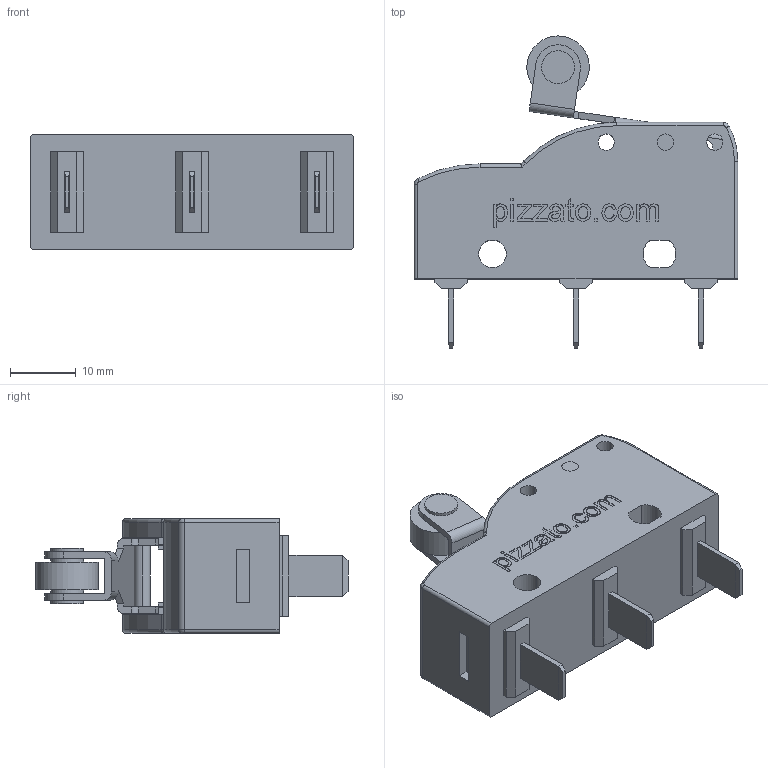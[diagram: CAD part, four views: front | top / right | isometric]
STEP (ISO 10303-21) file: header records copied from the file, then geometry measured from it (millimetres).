
FILE_DESCRIPTION (( 'STEP AP203' ), '1' );
FILE_NAME ('Pizzato_MK_HxxD59.STEP', '2009-02-18T16:14:57', ( 'mario' ), ( '' ), 'SwSTEP 2.0', 'SolidWorks 2009', '' );
FILE_SCHEMA (( 'CONFIG_CONTROL_DESIGN' ));
Length unit declared in the file: millimetre
Products named in the file (4): Pizzato_Perno Leva; Pizzato_Leva_MK59_MK59; Pizzato_Custodia_MK_MKH_Leva; Pizzato_MK_HxxD59
Assembly tree (3 placements, depth 2):
  Pizzato_MK_HxxD59
    Pizzato_Perno Leva
    Pizzato_Leva_MK59_MK59
    Pizzato_Custodia_MK_MKH_Leva
Bounding box: 49.2 x 47.47 x 17.4 mm (x, y, z)
Volume: 16406.8 mm3; surface area: 7294.4 mm2
Topology: 3 solids, 3 shells, 482 faces, 1268 edges, 834 vertices
Faces by surface type: plane 306, cylinder 97, bspline 69, torus 10
Entity records: 18582 total; most frequent: CARTESIAN_POINT 6489, ORIENTED_EDGE 2536, DIRECTION 2172, EDGE_CURVE 1268, VECTOR 922, LINE 922, VERTEX_POINT 834, AXIS2_PLACEMENT_3D 625
